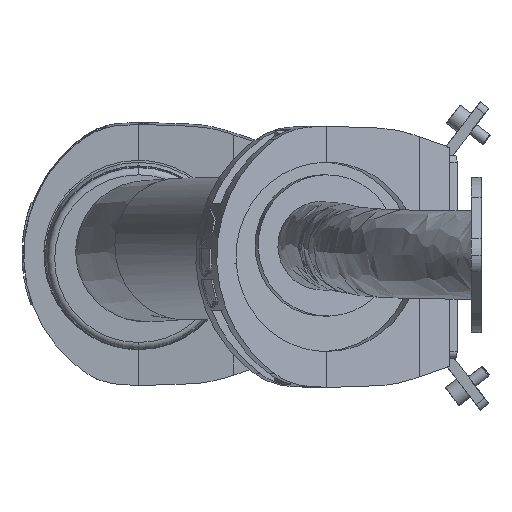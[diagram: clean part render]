
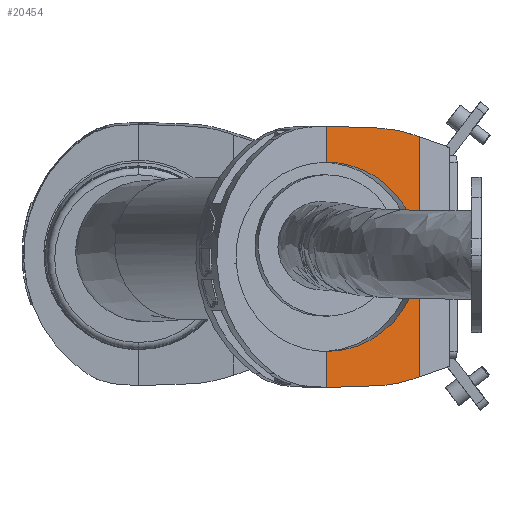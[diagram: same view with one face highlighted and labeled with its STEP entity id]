
A CAD part, left-side view. The second image highlights one B-rep face of the part: STEP entity #20454.
In plain terms, the highlighted planar face has unit normal (-0.974, -0.225, 0).
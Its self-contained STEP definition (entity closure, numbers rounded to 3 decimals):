
#114 = EDGE_CURVE ( 'NONE', #8532, #6999, #9092, .T. ) ;
#237 =( BOUNDED_CURVE ( )  B_SPLINE_CURVE ( 3, ( #3155, #11173, #9534, #25934 ),
 .UNSPECIFIED., .F., .F. ) 
 B_SPLINE_CURVE_WITH_KNOTS ( ( 4, 4 ),
 ( 4.747, 5.032 ),
 .UNSPECIFIED. ) 
 CURVE ( )  GEOMETRIC_REPRESENTATION_ITEM ( )  RATIONAL_B_SPLINE_CURVE ( ( 1., 0.993, 0.993, 1. ) ) 
 REPRESENTATION_ITEM ( '' )  );
#394 = CARTESIAN_POINT ( 'NONE',  ( 1311.196, 122.188, 2119.7 ) ) ;
#884 = DIRECTION ( 'NONE',  ( 0.214, -0.925, -0.314 ) ) ;
#961 = LINE ( 'NONE', #1372, #4528 ) ;
#1138 = VERTEX_POINT ( 'NONE', #22235 ) ;
#1372 = CARTESIAN_POINT ( 'NONE',  ( 1309.629, 128.973, 2079.377 ) ) ;
#2030 = ORIENTED_EDGE ( 'NONE', *, *, #18538, .F. ) ;
#2114 = ORIENTED_EDGE ( 'NONE', *, *, #22714, .F. ) ;
#2580 = DIRECTION ( 'NONE',  ( 0.225, -0.974, 0. ) ) ;
#2620 = ORIENTED_EDGE ( 'NONE', *, *, #19755, .F. ) ;
#2625 = CARTESIAN_POINT ( 'NONE',  ( 1298.644, 176.557, 2075.062 ) ) ;
#3155 = CARTESIAN_POINT ( 'NONE',  ( 1305.226, 148.045, 2222.041 ) ) ;
#3326 = ORIENTED_EDGE ( 'NONE', *, *, #4537, .F. ) ;
#3426 = VECTOR ( 'NONE', #14372, 1000. ) ;
#3626 = ORIENTED_EDGE ( 'NONE', *, *, #9064, .F. ) ;
#3790 = CARTESIAN_POINT ( 'NONE',  ( 1298.306, 178.021, 2075.01 ) ) ;
#4180 = EDGE_CURVE ( 'NONE', #26928, #24419, #8673, .T. ) ;
#4194 = CARTESIAN_POINT ( 'NONE',  ( 1304.88, 149.544, 2222.095 ) ) ;
#4528 = VECTOR ( 'NONE', #9685, 1000. ) ;
#4537 = EDGE_CURVE ( 'NONE', #1138, #22893, #26934, .T. ) ;
#4727 = VERTEX_POINT ( 'NONE', #23737 ) ;
#4840 = VERTEX_POINT ( 'NONE', #24554 ) ;
#4978 = AXIS2_PLACEMENT_3D ( 'NONE', #10733, #8683, #2580 ) ;
#6718 = CARTESIAN_POINT ( 'NONE',  ( 1298.644, 176.557, 2202.662 ) ) ;
#6981 = LINE ( 'NONE', #21234, #19981 ) ;
#6999 = VERTEX_POINT ( 'NONE', #9194 ) ;
#7038 = CARTESIAN_POINT ( 'NONE',  ( 1306.105, 144.237, 2095.462 ) ) ;
#7621 = ORIENTED_EDGE ( 'NONE', *, *, #25194, .F. ) ;
#7985 = DIRECTION ( 'NONE',  ( 0., 0., -1. ) ) ;
#8243 = CARTESIAN_POINT ( 'NONE',  ( 1309.947, 127.598, 2079.844 ) ) ;
#8532 = VERTEX_POINT ( 'NONE', #9499 ) ;
#8673 = LINE ( 'NONE', #15091, #15036 ) ;
#8683 = DIRECTION ( 'NONE',  ( 0.974, 0.225, 0. ) ) ;
#9064 = EDGE_CURVE ( 'NONE', #9392, #8532, #19694, .T. ) ;
#9092 =( BOUNDED_CURVE ( )  B_SPLINE_CURVE ( 3, ( #17031, #7038, #394, #25381 ),
 .UNSPECIFIED., .F., .F. ) 
 B_SPLINE_CURVE_WITH_KNOTS ( ( 4, 4 ),
 ( 1.571, 3.211 ),
 .UNSPECIFIED. ) 
 CURVE ( )  GEOMETRIC_REPRESENTATION_ITEM ( )  RATIONAL_B_SPLINE_CURVE ( ( 1., 0.788, 0.788, 1. ) ) 
 REPRESENTATION_ITEM ( '' )  );
#9194 = CARTESIAN_POINT ( 'NONE',  ( 1310.679, 124.424, 2152.77 ) ) ;
#9392 = VERTEX_POINT ( 'NONE', #2625 ) ;
#9499 = CARTESIAN_POINT ( 'NONE',  ( 1298.644, 176.557, 2095.462 ) ) ;
#9534 = CARTESIAN_POINT ( 'NONE',  ( 1308.419, 134.216, 2220.529 ) ) ;
#9685 = DIRECTION ( 'NONE',  ( -0.214, 0.925, -0.314 ) ) ;
#9717 = VECTOR ( 'NONE', #7985, 1000. ) ;
#10052 = VECTOR ( 'NONE', #23659, 1000. ) ;
#10142 = CARTESIAN_POINT ( 'NONE',  ( 1310.217, 126.428, 2182.4 ) ) ;
#10283 = CARTESIAN_POINT ( 'NONE',  ( 1305.329, 147.6, 2202.662 ) ) ;
#10699 = EDGE_CURVE ( 'NONE', #16238, #15752, #22731, .T. ) ;
#10733 = CARTESIAN_POINT ( 'NONE',  ( 1297.595, 181.099, 2249.062 ) ) ;
#11173 = CARTESIAN_POINT ( 'NONE',  ( 1306.835, 141.078, 2221.791 ) ) ;
#12186 = CARTESIAN_POINT ( 'NONE',  ( 1310.679, 124.424, 2152.77 ) ) ;
#14372 = DIRECTION ( 'NONE',  ( 0.225, -0.974, -0.035 ) ) ;
#14503 = CARTESIAN_POINT ( 'NONE',  ( 1308.419, 134.216, 2077.595 ) ) ;
#14638 = CARTESIAN_POINT ( 'NONE',  ( 1306.835, 141.078, 2076.333 ) ) ;
#15036 = VECTOR ( 'NONE', #16754, 1000. ) ;
#15091 = CARTESIAN_POINT ( 'NONE',  ( 1298.644, 176.557, 2223.062 ) ) ;
#15300 = VECTOR ( 'NONE', #18245, 1000. ) ;
#15752 = VERTEX_POINT ( 'NONE', #16632 ) ;
#15822 = PLANE ( 'NONE',  #4978 ) ;
#16238 = VERTEX_POINT ( 'NONE', #20529 ) ;
#16583 = CARTESIAN_POINT ( 'NONE',  ( 1310.798, 123.909, 2249.062 ) ) ;
#16632 = CARTESIAN_POINT ( 'NONE',  ( 1310.798, 123.909, 2081.098 ) ) ;
#16754 = DIRECTION ( 'NONE',  ( 0., 0., 1. ) ) ;
#17031 = CARTESIAN_POINT ( 'NONE',  ( 1298.644, 176.557, 2095.462 ) ) ;
#17869 = ORIENTED_EDGE ( 'NONE', *, *, #18412, .F. ) ;
#17999 = ORIENTED_EDGE ( 'NONE', *, *, #10699, .F. ) ;
#18245 = DIRECTION ( 'NONE',  ( -0.225, 0.974, -0.035 ) ) ;
#18412 = EDGE_CURVE ( 'NONE', #4840, #4727, #237, .T. ) ;
#18538 = EDGE_CURVE ( 'NONE', #15752, #1138, #961, .T. ) ;
#19381 = EDGE_LOOP ( 'NONE', ( #20294, #3626, #7621, #3326, #2030, #17999, #22810, #17869, #2114, #26037, #2620 ) ) ;
#19452 = CARTESIAN_POINT ( 'NONE',  ( 1305.226, 148.045, 2076.083 ) ) ;
#19694 = LINE ( 'NONE', #21478, #10052 ) ;
#19755 = EDGE_CURVE ( 'NONE', #6999, #26928, #26430, .T. ) ;
#19981 = VECTOR ( 'NONE', #884, 1000. ) ;
#20243 = CARTESIAN_POINT ( 'NONE',  ( 1298.644, 176.557, 2223.062 ) ) ;
#20294 = ORIENTED_EDGE ( 'NONE', *, *, #114, .F. ) ;
#20454 = ADVANCED_FACE ( 'NONE', ( #26611 ), #15822, .F. ) ;
#20529 = CARTESIAN_POINT ( 'NONE',  ( 1310.798, 123.909, 2217.026 ) ) ;
#21234 = CARTESIAN_POINT ( 'NONE',  ( 1309.629, 128.973, 2218.747 ) ) ;
#21478 = CARTESIAN_POINT ( 'NONE',  ( 1298.644, 176.557, 2223.062 ) ) ;
#22235 = CARTESIAN_POINT ( 'NONE',  ( 1309.947, 127.598, 2079.844 ) ) ;
#22714 = EDGE_CURVE ( 'NONE', #24419, #4840, #24807, .T. ) ;
#22731 = LINE ( 'NONE', #16583, #9717 ) ;
#22810 = ORIENTED_EDGE ( 'NONE', *, *, #22940, .F. ) ;
#22893 = VERTEX_POINT ( 'NONE', #19452 ) ;
#22940 = EDGE_CURVE ( 'NONE', #4727, #16238, #6981, .T. ) ;
#23016 = CARTESIAN_POINT ( 'NONE',  ( 1305.226, 148.045, 2076.083 ) ) ;
#23020 = LINE ( 'NONE', #3790, #15300 ) ;
#23659 = DIRECTION ( 'NONE',  ( 0., 0., 1. ) ) ;
#23737 = CARTESIAN_POINT ( 'NONE',  ( 1309.947, 127.598, 2218.28 ) ) ;
#24419 = VERTEX_POINT ( 'NONE', #20243 ) ;
#24554 = CARTESIAN_POINT ( 'NONE',  ( 1305.226, 148.045, 2222.041 ) ) ;
#24807 = LINE ( 'NONE', #4194, #3426 ) ;
#25194 = EDGE_CURVE ( 'NONE', #22893, #9392, #23020, .T. ) ;
#25381 = CARTESIAN_POINT ( 'NONE',  ( 1310.679, 124.424, 2152.77 ) ) ;
#25934 = CARTESIAN_POINT ( 'NONE',  ( 1309.947, 127.598, 2218.28 ) ) ;
#26037 = ORIENTED_EDGE ( 'NONE', *, *, #4180, .F. ) ;
#26430 =( BOUNDED_CURVE ( )  B_SPLINE_CURVE ( 3, ( #12186, #10142, #10283, #26823 ),
 .UNSPECIFIED., .F., .T. ) 
 B_SPLINE_CURVE_WITH_KNOTS ( ( 4, 4 ),
 ( 3.211, 4.712 ),
 .UNSPECIFIED. ) 
 CURVE ( )  GEOMETRIC_REPRESENTATION_ITEM ( )  RATIONAL_B_SPLINE_CURVE ( ( 1., 0.821, 0.821, 1. ) ) 
 REPRESENTATION_ITEM ( '' )  );
#26611 = FACE_OUTER_BOUND ( 'NONE', #19381, .T. ) ;
#26823 = CARTESIAN_POINT ( 'NONE',  ( 1298.644, 176.557, 2202.662 ) ) ;
#26928 = VERTEX_POINT ( 'NONE', #6718 ) ;
#26934 =( BOUNDED_CURVE ( )  B_SPLINE_CURVE ( 3, ( #8243, #14503, #14638, #23016 ),
 .UNSPECIFIED., .F., .F. ) 
 B_SPLINE_CURVE_WITH_KNOTS ( ( 4, 4 ),
 ( 1.251, 1.536 ),
 .UNSPECIFIED. ) 
 CURVE ( )  GEOMETRIC_REPRESENTATION_ITEM ( )  RATIONAL_B_SPLINE_CURVE ( ( 1., 0.993, 0.993, 1. ) ) 
 REPRESENTATION_ITEM ( '' )  );
